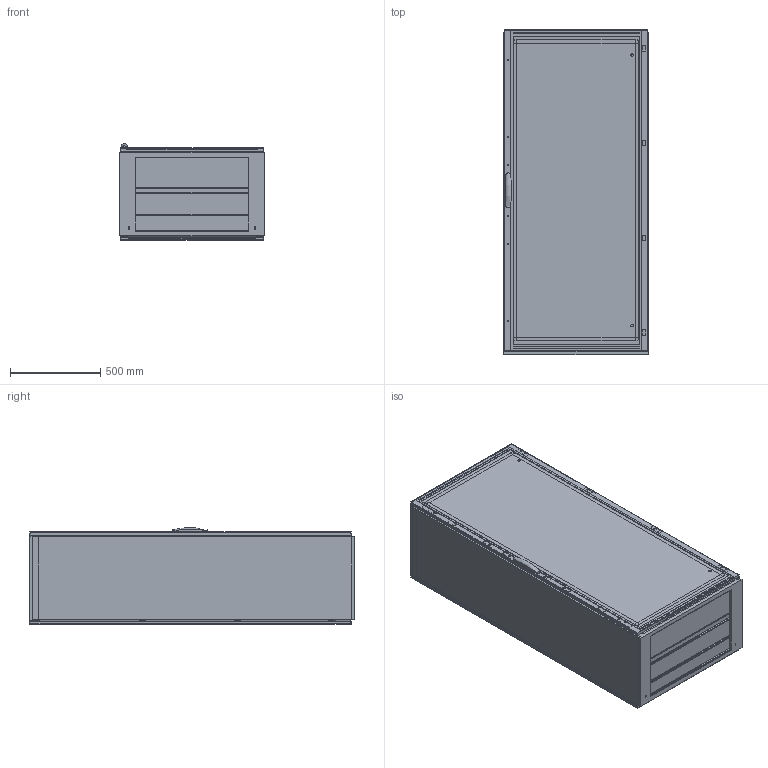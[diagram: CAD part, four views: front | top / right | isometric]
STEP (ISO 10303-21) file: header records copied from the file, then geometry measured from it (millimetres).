
FILE_DESCRIPTION(/* description */ ('STEP AP203'),/* implementation_level */ '2;1');
FILE_NAME(/* name */ 'MKS18085R5(0)',/* time_stamp */ '2024-02-22T14:15:58+01:00',/* author */ ('License CC BY-ND 4.0'),/* organization */ ('CADENAS'),/* preprocessor_version */ 'ST-DEVELOPER v19.3',/* originating_system */ 'PARTsolutions',/* authorisation */ ' ');
FILE_SCHEMA (('CONFIG_CONTROL_DESIGN'));
Length unit declared in the file: millimetre
Products named in the file (19): MKS18085R5(0); MKS18085R5(0)_Frame; CRPK08(0)_Rear Panel Mounting Kit; CRP1808R5(0)_Rear Panel; DNMK02(0)_Hinge Right; DN1808R5(0)_Plain door; LSSDXXXX(0)_Lock; LSSD1800(0)_Espagnolette Top; LSSD1800(0)_Espagnolette Bottom; DNMK01(0)_Rod catches; MPA06(0)_Mounting Plate Brackets 1; MP1808(0)_P1; MPA06(0)_Mounting Plate Brackets 2; MPA06(0)_Mounting Plate Brackets 3; MPA06(0)_Mounting Plate Brackets 4; CCR085R5(0)_MKD Roof plate; CBPW800D200(0)_Bottom Plate 3; CBP080(0)_Bottom Plate 1; CBP080(0)_Bottom Plate 2
Assembly tree (31 placements, depth 2):
  MKS18085R5(0)
    MKS18085R5(0)_Frame
    CRPK08(0)_Rear Panel Mounting Kit  x8
    CRP1808R5(0)_Rear Panel
    DNMK02(0)_Hinge Right  x4
    DN1808R5(0)_Plain door
    LSSDXXXX(0)_Lock
    LSSD1800(0)_Espagnolette Top
    LSSD1800(0)_Espagnolette Bottom
    DNMK01(0)_Rod catches  x4
    MPA06(0)_Mounting Plate Brackets 1
    MP1808(0)_P1
    MPA06(0)_Mounting Plate Brackets 2
    MPA06(0)_Mounting Plate Brackets 3
    MPA06(0)_Mounting Plate Brackets 4
    CCR085R5(0)_MKD Roof plate
    CBPW800D200(0)_Bottom Plate 3
    CBP080(0)_Bottom Plate 1
    CBP080(0)_Bottom Plate 2
Bounding box: 800 x 1805 x 534.85 mm (x, y, z)
Volume: 25668868.4 mm3; surface area: 16132582.8 mm2
Topology: 31 solids, 31 shells, 1333 faces, 3465 edges, 2287 vertices
Faces by surface type: plane 1152, cylinder 122, cone 58, torus 1
Full cylindrical faces by diameter (mm): 2.55 x2, 5 x18, 5.2 x2, 6 x6, 7 x6, 7.4 x4, 8 x18, 9 x2, 10 x8, 13 x2, 14 x4
Entity records: 31714 total; most frequent: CARTESIAN_POINT 5489, ORIENTED_EDGE 5120, DIRECTION 4914, EDGE_CURVE 2560, LINE 2276, VECTOR 2276, VERTEX_POINT 1744, AXIS2_PLACEMENT_3D 1319
